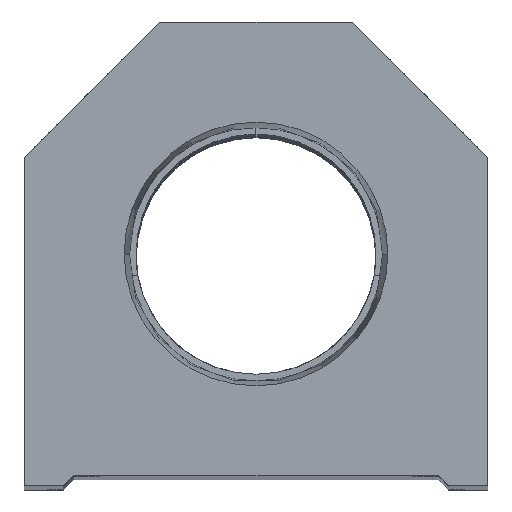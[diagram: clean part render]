
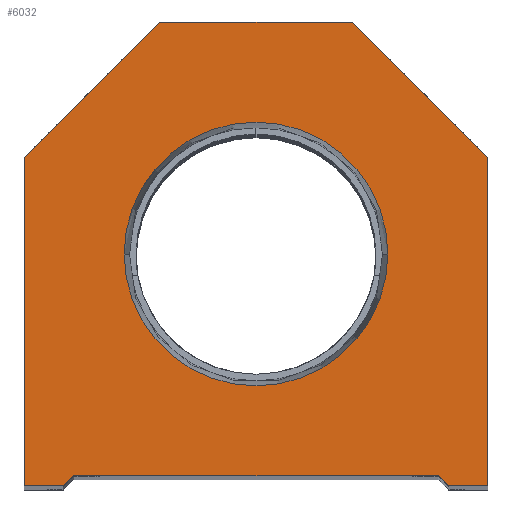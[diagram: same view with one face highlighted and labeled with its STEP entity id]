
A CAD part, top view. The second image highlights one B-rep face of the part: STEP entity #6032.
In plain terms, the highlighted planar face has unit normal (0, 0, 1).
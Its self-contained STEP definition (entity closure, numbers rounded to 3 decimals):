
#233 = ORIENTED_EDGE ( 'NONE', *, *, #917, .T. ) ;
#747 = VECTOR ( 'NONE', #1109, 1000. ) ;
#917 = EDGE_CURVE ( 'NONE', #2955, #8006, #4139, .T. ) ;
#1026 = DIRECTION ( 'NONE',  ( -0.707, -0.707, 0. ) ) ;
#1109 = DIRECTION ( 'NONE',  ( 1., 0., 0. ) ) ;
#1153 = CARTESIAN_POINT ( 'NONE',  ( 17.5, 1., 0. ) ) ;
#1575 = VERTEX_POINT ( 'NONE', #12624 ) ;
#1589 = ORIENTED_EDGE ( 'NONE', *, *, #3242, .T. ) ;
#2569 = CARTESIAN_POINT ( 'NONE',  ( -18.5, 0., 0. ) ) ;
#2613 = ORIENTED_EDGE ( 'NONE', *, *, #23185, .T. ) ;
#2718 = EDGE_LOOP ( 'NONE', ( #1589, #19689, #10031, #7882, #21707, #6779, #20604, #2936, #2613, #233 ) ) ;
#2911 = DIRECTION ( 'NONE',  ( 1., 0., 0. ) ) ;
#2936 = ORIENTED_EDGE ( 'NONE', *, *, #23017, .T. ) ;
#2944 = LINE ( 'NONE', #10369, #3430 ) ;
#2955 = VERTEX_POINT ( 'NONE', #12433 ) ;
#3242 = EDGE_CURVE ( 'NONE', #8006, #10895, #7304, .T. ) ;
#3430 = VECTOR ( 'NONE', #8558, 1000. ) ;
#4139 = LINE ( 'NONE', #15081, #17115 ) ;
#4729 = LINE ( 'NONE', #12138, #21783 ) ;
#4874 = VERTEX_POINT ( 'NONE', #16875 ) ;
#5958 = VECTOR ( 'NONE', #19994, 1000. ) ;
#6032 = ADVANCED_FACE ( 'NONE', ( #12155, #23025 ), #6099, .T. ) ;
#6099 = PLANE ( 'NONE',  #21168 ) ;
#6445 = VECTOR ( 'NONE', #11103, 1000. ) ;
#6596 = VECTOR ( 'NONE', #1026, 1000. ) ;
#6761 = VERTEX_POINT ( 'NONE', #8544 ) ;
#6779 = ORIENTED_EDGE ( 'NONE', *, *, #10601, .T. ) ;
#6832 = CIRCLE ( 'NONE', #8004, 12.647 ) ;
#6931 = DIRECTION ( 'NONE',  ( 0., 0., 1. ) ) ;
#7254 = VERTEX_POINT ( 'NONE', #19946 ) ;
#7304 = LINE ( 'NONE', #12528, #5958 ) ;
#7663 = EDGE_CURVE ( 'NONE', #1575, #23299, #6832, .T. ) ;
#7882 = ORIENTED_EDGE ( 'NONE', *, *, #14273, .T. ) ;
#7974 = DIRECTION ( 'NONE',  ( 1., 0., 0. ) ) ;
#8004 = AXIS2_PLACEMENT_3D ( 'NONE', #16670, #6931, #14585 ) ;
#8006 = VERTEX_POINT ( 'NONE', #16873 ) ;
#8342 = CARTESIAN_POINT ( 'NONE',  ( -22.25, 31.5, 0. ) ) ;
#8544 = CARTESIAN_POINT ( 'NONE',  ( 22.25, 31.5, 0. ) ) ;
#8558 = DIRECTION ( 'NONE',  ( 0.707, -0.707, 0. ) ) ;
#8703 = CARTESIAN_POINT ( 'NONE',  ( 12.647, 22.25, 0. ) ) ;
#8964 = LINE ( 'NONE', #10537, #19441 ) ;
#9277 = LINE ( 'NONE', #12794, #6445 ) ;
#10027 = CARTESIAN_POINT ( 'NONE',  ( 0., 22.25, 0. ) ) ;
#10031 = ORIENTED_EDGE ( 'NONE', *, *, #22380, .T. ) ;
#10045 = DIRECTION ( 'NONE',  ( -0.707, 0.707, 0. ) ) ;
#10369 = CARTESIAN_POINT ( 'NONE',  ( 9.25, 9.25, 0. ) ) ;
#10397 = LINE ( 'NONE', #8342, #6596 ) ;
#10537 = CARTESIAN_POINT ( 'NONE',  ( 17.5, 0., 0. ) ) ;
#10601 = EDGE_CURVE ( 'NONE', #20067, #6761, #9277, .T. ) ;
#10895 = VERTEX_POINT ( 'NONE', #2569 ) ;
#11103 = DIRECTION ( 'NONE',  ( 0., 1., 0. ) ) ;
#11344 = EDGE_CURVE ( 'NONE', #6761, #4874, #11985, .T. ) ;
#11696 = DIRECTION ( 'NONE',  ( 0., 0., 1. ) ) ;
#11969 = DIRECTION ( 'NONE',  ( 0., 0., 1. ) ) ;
#11985 = LINE ( 'NONE', #17595, #14212 ) ;
#12138 = CARTESIAN_POINT ( 'NONE',  ( 9.25, 44.5, 0. ) ) ;
#12155 = FACE_BOUND ( 'NONE', #13682, .T. ) ;
#12342 = DIRECTION ( 'NONE',  ( 1., 0., 0. ) ) ;
#12433 = CARTESIAN_POINT ( 'NONE',  ( -22.25, 31.5, 0. ) ) ;
#12528 = CARTESIAN_POINT ( 'NONE',  ( -17.5, 0., 0. ) ) ;
#12624 = CARTESIAN_POINT ( 'NONE',  ( -12.647, 22.25, 0. ) ) ;
#12794 = CARTESIAN_POINT ( 'NONE',  ( 22.25, 0., 0. ) ) ;
#12968 = VERTEX_POINT ( 'NONE', #21975 ) ;
#13682 = EDGE_LOOP ( 'NONE', ( #17024, #16397 ) ) ;
#13686 = CIRCLE ( 'NONE', #23837, 12.647 ) ;
#13743 = CARTESIAN_POINT ( 'NONE',  ( 0., 0., 0. ) ) ;
#14212 = VECTOR ( 'NONE', #10045, 1000. ) ;
#14248 = CARTESIAN_POINT ( 'NONE',  ( -17.5, 1., 0. ) ) ;
#14273 = EDGE_CURVE ( 'NONE', #18986, #7254, #2944, .T. ) ;
#14585 = DIRECTION ( 'NONE',  ( 1., 0., 0. ) ) ;
#15081 = CARTESIAN_POINT ( 'NONE',  ( -22.25, 0., 0. ) ) ;
#15669 = EDGE_CURVE ( 'NONE', #7254, #20067, #8964, .T. ) ;
#16397 = ORIENTED_EDGE ( 'NONE', *, *, #7663, .F. ) ;
#16670 = CARTESIAN_POINT ( 'NONE',  ( 0., 22.25, 0. ) ) ;
#16873 = CARTESIAN_POINT ( 'NONE',  ( -22.25, 0., 0. ) ) ;
#16875 = CARTESIAN_POINT ( 'NONE',  ( 9.25, 44.5, 0. ) ) ;
#17024 = ORIENTED_EDGE ( 'NONE', *, *, #20370, .F. ) ;
#17115 = VECTOR ( 'NONE', #22765, 1000. ) ;
#17595 = CARTESIAN_POINT ( 'NONE',  ( 22.25, 31.5, 0. ) ) ;
#17637 = LINE ( 'NONE', #21535, #20256 ) ;
#18986 = VERTEX_POINT ( 'NONE', #1153 ) ;
#19441 = VECTOR ( 'NONE', #12342, 1000. ) ;
#19598 = DIRECTION ( 'NONE',  ( -1., 0., 0. ) ) ;
#19689 = ORIENTED_EDGE ( 'NONE', *, *, #23927, .T. ) ;
#19946 = CARTESIAN_POINT ( 'NONE',  ( 18.5, 0., 0. ) ) ;
#19994 = DIRECTION ( 'NONE',  ( 1., 0., 0. ) ) ;
#20067 = VERTEX_POINT ( 'NONE', #21741 ) ;
#20083 = VERTEX_POINT ( 'NONE', #20298 ) ;
#20256 = VECTOR ( 'NONE', #23245, 1000. ) ;
#20298 = CARTESIAN_POINT ( 'NONE',  ( -17.5, 1., 0. ) ) ;
#20370 = EDGE_CURVE ( 'NONE', #23299, #1575, #13686, .T. ) ;
#20604 = ORIENTED_EDGE ( 'NONE', *, *, #11344, .T. ) ;
#21168 = AXIS2_PLACEMENT_3D ( 'NONE', #13743, #11696, #2911 ) ;
#21535 = CARTESIAN_POINT ( 'NONE',  ( -9.25, 9.25, 0. ) ) ;
#21707 = ORIENTED_EDGE ( 'NONE', *, *, #15669, .T. ) ;
#21741 = CARTESIAN_POINT ( 'NONE',  ( 22.25, 0., 0. ) ) ;
#21783 = VECTOR ( 'NONE', #19598, 1000. ) ;
#21975 = CARTESIAN_POINT ( 'NONE',  ( -9.25, 44.5, 0. ) ) ;
#22380 = EDGE_CURVE ( 'NONE', #20083, #18986, #23535, .T. ) ;
#22765 = DIRECTION ( 'NONE',  ( 0., -1., 0. ) ) ;
#23017 = EDGE_CURVE ( 'NONE', #4874, #12968, #4729, .T. ) ;
#23025 = FACE_OUTER_BOUND ( 'NONE', #2718, .T. ) ;
#23185 = EDGE_CURVE ( 'NONE', #12968, #2955, #10397, .T. ) ;
#23245 = DIRECTION ( 'NONE',  ( 0.707, 0.707, 0. ) ) ;
#23299 = VERTEX_POINT ( 'NONE', #8703 ) ;
#23535 = LINE ( 'NONE', #14248, #747 ) ;
#23837 = AXIS2_PLACEMENT_3D ( 'NONE', #10027, #11969, #7974 ) ;
#23927 = EDGE_CURVE ( 'NONE', #10895, #20083, #17637, .T. ) ;
